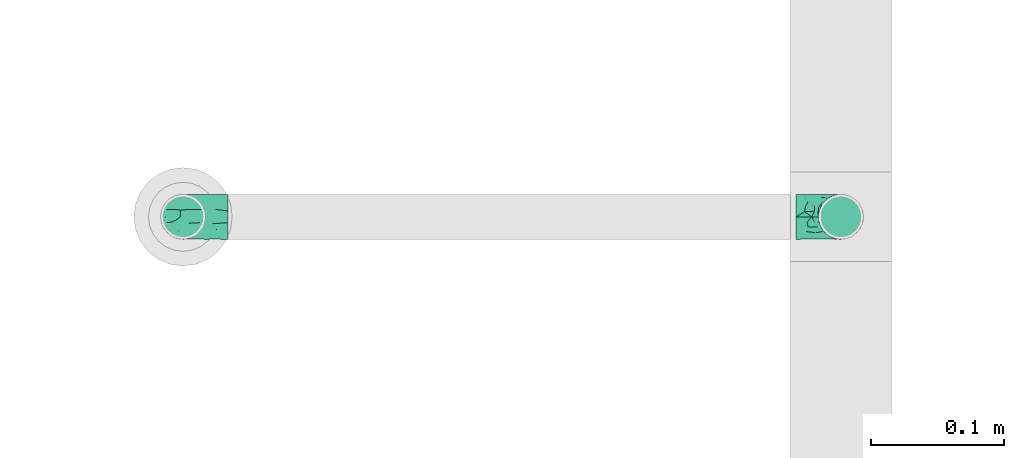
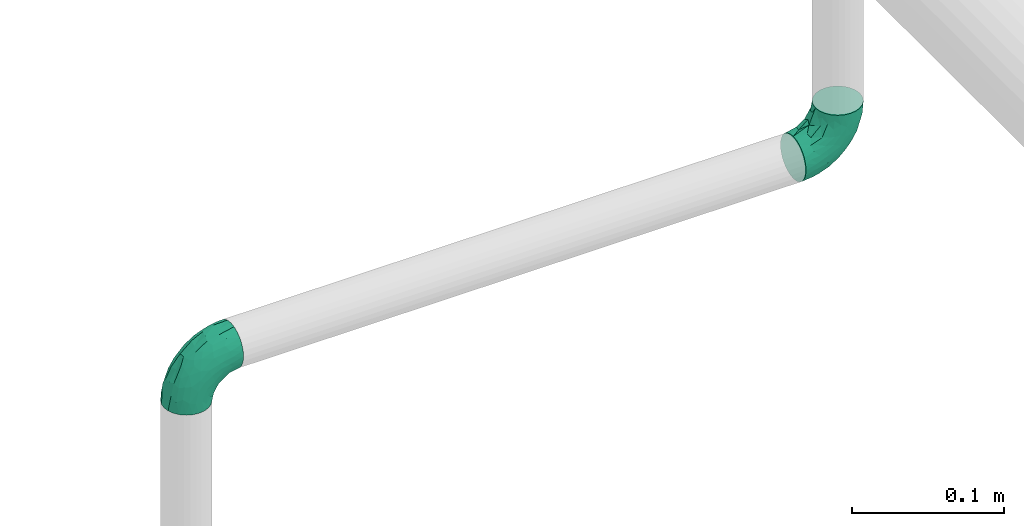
# One storey, part 78 of 95: 2 flow fittings.
"""IFC2X3 building model written with IfcOpenShell, lengths in millimetres."""

from ifc_helpers import new_model, entity, si_unit, converted_unit, derived_unit, direction, frame, origin_with_axes, place, context, subcontext, project, spatial, open_shell, surface_model, source, transform, mapped, type_object, element, save


model = new_model("IFC2X3")

# Units and contexts
model_context = context("Model", 3, precision=0.01, world=frame((0.0, 4.29681676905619e-09, 0.0)), true_north=direction((4.01073788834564e-13, 1.0)))
plan_context = context("Plan", 3, precision=0.01, world=frame((0.0, 4.29681676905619e-09, 0.0)), true_north=direction((4.01073788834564e-13, 1.0)))
body_context = subcontext(model_context, "Body", "Model", "MODEL_VIEW")
ifc_project = project(units=[converted_unit("PLANEANGLEUNIT", "DEGREE", entity("IfcPositiveLengthMeasure", 0.0174532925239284), si_unit("PLANEANGLEUNIT", "RADIAN"), dimensions=[0, 0, 0, 0, 0, 0, 0]), si_unit("AREAUNIT", "SQUARE_METRE"), si_unit("LENGTHUNIT", "METRE", prefix="MILLI"), si_unit("MASSUNIT", "GRAM", prefix="KILO"), si_unit("POWERUNIT", "WATT"), si_unit("PRESSUREUNIT", "PASCAL"), si_unit("FORCEUNIT", "NEWTON", prefix="KILO"), si_unit("ELECTRICVOLTAGEUNIT", "VOLT"), si_unit("ELECTRICCURRENTUNIT", "AMPERE"), si_unit("THERMODYNAMICTEMPERATUREUNIT", "DEGREE_CELSIUS"), si_unit("TIMEUNIT", "SECOND"), si_unit("VOLUMEUNIT", "CUBIC_METRE"), derived_unit("LINEARVELOCITYUNIT", [(si_unit("LENGTHUNIT", "METRE"), 1), (si_unit("TIMEUNIT", "SECOND"), -1)]), derived_unit("VOLUMETRICFLOWRATEUNIT", [(si_unit("VOLUMEUNIT", "CUBIC_METRE"), 1), (si_unit("TIMEUNIT", "SECOND"), -1)]), derived_unit("THERMALTRANSMITTANCEUNIT", [(si_unit("POWERUNIT", "WATT"), 1), (si_unit("THERMODYNAMICTEMPERATUREUNIT", "KELVIN"), -1), (si_unit("AREAUNIT", "SQUARE_METRE"), -1)]), derived_unit("SOUNDPRESSUREUNIT", [(si_unit("PRESSUREUNIT", "PASCAL"), 1)])], contexts=[model_context, plan_context])

# Site, building, storey
site_placement = place(None, frame((0.0, -4.29681676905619e-09, 0.0), z_axis=(0.0, 0.0, 1.0), x_axis=(1.0, 0.0, 0.0)))
site = spatial("IfcSite", under=ifc_project, at=site_placement, CompositionType="ELEMENT")
building_placement = place(site_placement, frame((0.0, 4.29681676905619e-09, 0.0), z_axis=(0.0, 0.0, 1.0), x_axis=(1.0, 0.0, 0.0)))
building = spatial("IfcBuilding", under=site, at=building_placement, Name="mc-building", CompositionType="ELEMENT")
storey_placement = place(building_placement, frame((0.0, 0.0, 210900.0), z_axis=(0.0, 0.0, 1.0), x_axis=(1.0, 0.0, 0.0)))
storey = spatial("IfcBuildingStorey", under=building, at=storey_placement, Name="Nivå F", CompositionType="ELEMENT", Elevation=210900.0)

# Flow fittings
pipe_fitting_type = type_object("IfcPipeFittingType", Name="magi_pipe_fe_elbow_short_001", PredefinedType="BEND")
shared_shape_1 = source(origin_with_axes(), body_context, "Body", "SurfaceModel", [
    surface_model("IfcShellBasedSurfaceModel", [(-33.8, 8.45, -14.63583), (-33.8, 4.37404, -16.32415), (-33.8, 11.9501, -11.9501), (-33.8, -11.9501, -11.9501), (-33.8, -14.63583, -8.45), (-33.8, -8.45, -14.63583), (-33.8, 0.0, -16.9), (-33.8, -4.37404, -16.32415), (-33.8, -4.37404, 16.32415), (-33.8, 0.0, 16.9), (-33.8, -8.45, 14.63583), (-33.8, 16.32415, -4.37404), (-33.8, 14.63583, -8.45), (-33.8, -16.32415, -4.37404), (-33.8, -16.9, 0.0), (-33.8, -16.32415, 4.37404), (-33.8, 11.9501, 11.9501), (-33.8, 14.63583, 8.45), (-33.8, 16.32415, 4.37404), (-33.8, 4.37404, 16.32415), (-33.8, 8.45, 14.63583), (-33.8, -14.63583, 8.45), (-33.8, -11.9501, 11.9501), (-33.8, 16.9, 0.0), (-11.9501, 33.8, -11.9501), (0.0, 33.8, -16.9), (-4.37404, 33.8, -16.32415), (-8.45, 33.8, -14.63583), (-14.63583, 33.8, -8.45), (-16.32415, 33.8, -4.37404), (14.63583, 33.8, -8.45), (8.45, 33.8, 14.63583), (16.32415, 33.8, -4.37404), (8.45, 33.8, -14.63583), (11.9501, 33.8, -11.9501), (4.37404, 33.8, -16.32415), (16.32415, 33.8, 4.37404), (16.9, 33.8, 0.0), (-11.9501, 33.8, 11.9501), (-16.32415, 33.8, 4.37404), (-14.63583, 33.8, 8.45), (-8.45, 33.8, 14.63583), (-4.37404, 33.8, 16.32415), (11.9501, 33.8, 11.9501), (14.63583, 33.8, 8.45), (0.0, 33.8, 16.9), (4.37404, 33.8, 16.32415), (-16.9, 33.8, 0.0), (-24.79389, -13.12945, 9.48721), (-22.19287, -9.75018, 12.59315), (-24.09897, -14.97035, 0.0), (-14.93934, -10.76256, 8.5297), (-22.46095, -14.75051, 5.27077), (14.75051, 22.46094, 5.27077), (11.9251, 13.23888, 4.33236), (13.04069, 14.39795, 0.0), (7.71387, 13.68847, 11.55891), (9.75018, 22.19287, 12.59315), (4.10169, 13.0571, 14.04018), (-24.84007, -6.39063, 15.2048), (-25.81779, -2.23879, 16.61097), (-23.66549, 2.59054, 16.87119), (-26.50418, 14.06512, 11.08152), (-24.21253, 17.66365, 7.72657), (-29.58514, 15.86957, 7.00283), (-6.17382, -7.5455, 0.0), (-13.23888, -11.9251, 4.33236), (-14.39795, -13.04069, 0.0), (-17.81434, 18.87373, 11.97104), (-6.30846, 29.15138, 15.82987), (-2.31622, 25.28002, 16.85849), (-29.23923, 10.23435, 13.77053), (-1.45439, -2.85688, 7.61475), (-0.28326, 0.34872, 10.09509), (-5.74484, -4.04709, 10.4122), (-4.41137, 11.31918, 16.59407), (-8.39727, 3.10034, 15.7812), (-1.72649, 9.1306, 15.53089), (-17.39909, 24.75344, 7.64977), (-26.19233, 20.0512, 0.0), (-28.14518, 17.29657, 4.25857), (-26.05147, 6.6281, 15.96447), (-5.87354, 16.61944, 16.86968), (-12.51807, 12.51807, 16.48937), (-10.06312, 7.38516, 16.81295), (-3.01882, 3.01882, 13.81718), (-13.0571, -4.10169, 14.04018), (-16.82553, -0.15166, 16.38038), (10.76256, 14.93934, 8.5297), (13.12945, 24.79389, 9.48721), (6.39063, 24.84007, 15.2048), (2.23879, 25.81779, 16.61097), (-13.68847, -7.71387, 11.55891), (14.97035, 24.09897, 0.0), (-7.30894, 22.89991, 16.09489), (-10.67958, 26.17414, 14.008), (-12.78295, 18.26924, 15.06066), (-13.88562, 22.45231, 12.93244), (-18.04944, 15.16501, 14.04434), (-23.11658, 20.08178, 4.02986), (-21.84989, 21.84989, 0.0), (-18.55817, 25.48277, 3.93065), (-13.95142, 26.94732, 11.03289), (-18.57098, 7.23906, 16.59756), (-16.58335, 4.14122, 16.89279), (-17.96666, 11.46709, 15.63151), (-9.84453, 17.54304, 16.18938), (0.15166, 16.82553, 16.38038), (-23.27207, 11.47201, 14.23154), (3.84842, 5.86994, 10.70473), (-8.0212, -7.54413, 7.93275), (1.00345, -2.19508, 4.57414), (5.13203, 3.01004, 5.90201), (5.24161, 1.7543, 2.53265), (8.70457, 7.04947, 3.99182), (-20.0512, 26.19233, 0.0), (8.4852, 8.76699, 7.09296), (-4.55488, -6.72064, 4.90681), (2.05031, -2.05031, 0.0), (7.5455, 6.17382, 0.0), (-26.75399, 2.1369, -16.845), (-14.61995, 24.73803, -11.27736), (-28.45274, -13.45335, -9.81895), (-26.00469, 6.63555, -15.96645), (-23.06726, 20.04573, -4.26202), (-13.80647, -4.26506, -14.17873), (-14.67501, -0.21081, -16.07388), (-6.7902, -0.2828, -13.8478), (-24.53586, 11.08096, -14.13417), (-26.72048, 14.00837, -11.05776), (10.0967, 24.44989, -12.75976), (5.83237, 21.40218, -15.03047), (6.66249, 28.54238, -15.38093), (-20.38182, 15.48705, -12.74596), (12.53268, 21.23441, -9.15363), (12.54494, 15.67504, -5.54878), (9.7522, 12.89279, -8.66343), (-15.65186, 19.64213, -13.01327), (-12.03528, 20.66498, -14.67665), (-15.61907, 15.61906, -14.83879), (-25.56551, -15.26206, 0.0), (-24.65452, -15.12934, -5.50955), (13.45335, 28.45274, -9.81895), (15.12934, 24.65452, -5.50955), (-7.35442, -8.31014, -5.65563), (-15.67504, -12.54494, -5.54878), (-24.44989, -10.0967, -12.75976), (0.16522, 0.41303, -9.71728), (-5.70658, -5.33066, -8.89288), (-5.13869, -2.37198, -11.53565), (-21.23441, -12.53268, -9.15363), (0.71146, 7.93863, -14.09382), (0.21081, 14.67501, -16.07388), (3.49291, 14.42772, -14.76381), (-24.89911, -2.13088, -16.591), (-28.54238, -6.66249, -15.38093), (-18.44386, -7.71663, -13.26957), (2.13088, 24.89911, -16.591), (-28.64342, 17.44413, -2.89318), (1.70017, -1.28722, -5.09504), (-16.57067, 26.81947, -7.36596), (-17.69055, 27.4263, -3.76405), (-12.89279, -9.7522, -8.66343), (-5.96611, 5.96611, -15.95814), (-20.53709, 20.09345, -8.28985), (-2.1369, 26.75399, -16.845), (-6.89872, 24.58781, -16.02578), (-10.60739, 26.53157, -13.98044), (-21.40218, -5.83237, -15.03047), (2.93192, 5.89627, -11.55917), (6.89393, 12.61842, -11.82233), (5.58056, 5.95325, -8.79455), (-3.99512, 18.61798, -16.89635), (8.31014, 7.35442, -5.65563), (-9.1383, 9.86148, -16.89041), (-9.99983, 16.02119, -16.39699), (-16.68576, 9.78031, -16.34199), (-27.01915, 16.61158, -7.12979), (15.26206, 25.56551, 0.0), (-18.61798, 3.99512, -16.89635), (-19.37495, 27.82495, 0.0), (-12.61842, -6.89393, -11.82233), (-18.84705, 19.14018, -10.96545)], [open_shell([[[0, 1, 2]], [[3, 4, 5]], [[6, 7, 5]], [[8, 9, 10]], [[1, 6, 2]], [[11, 12, 2]], [[4, 2, 6]], [[2, 13, 10]], [[5, 4, 6]], [[2, 4, 13]], [[14, 15, 13]], [[11, 2, 16]], [[11, 17, 18]], [[11, 16, 17]], [[19, 20, 16]], [[16, 2, 10]], [[19, 16, 10]], [[21, 22, 15]], [[22, 13, 15]], [[22, 10, 13]], [[10, 9, 19]], [[11, 18, 23]], [[24, 25, 26]], [[24, 26, 27]], [[24, 28, 29]], [[25, 24, 30]], [[31, 32, 24]], [[33, 30, 34]], [[33, 35, 25]], [[25, 30, 33]], [[32, 30, 24]], [[32, 36, 37]], [[38, 24, 29]], [[39, 40, 29]], [[40, 38, 29]], [[38, 41, 42]], [[38, 31, 24]], [[31, 38, 42]], [[36, 43, 44]], [[36, 32, 43]], [[31, 45, 46]], [[32, 31, 43]], [[42, 45, 31]], [[39, 29, 47]], [[22, 48, 49]], [[15, 14, 50]], [[51, 48, 52]], [[53, 54, 55]], [[48, 22, 21]], [[15, 52, 21]], [[56, 57, 58]], [[49, 10, 22]], [[49, 59, 10]], [[9, 60, 61]], [[62, 63, 64]], [[65, 66, 67]], [[57, 43, 31]], [[62, 68, 63]], [[42, 69, 70]], [[20, 71, 16]], [[8, 60, 9]], [[72, 73, 74]], [[75, 76, 77]], [[16, 62, 17]], [[40, 39, 78]], [[79, 23, 80]], [[64, 18, 17]], [[9, 61, 19]], [[19, 81, 20]], [[82, 83, 84]], [[74, 85, 86]], [[59, 86, 87]], [[88, 89, 57]], [[90, 31, 46]], [[44, 53, 36]], [[46, 45, 91]], [[54, 53, 88]], [[44, 89, 53]], [[92, 86, 49]], [[89, 44, 43]], [[10, 59, 8]], [[53, 55, 93]], [[93, 36, 53]], [[66, 52, 67]], [[94, 82, 70]], [[95, 96, 94]], [[97, 98, 96]], [[79, 99, 100]], [[41, 38, 95]], [[101, 100, 99]], [[68, 78, 63]], [[42, 41, 69]], [[23, 18, 80]], [[95, 94, 69]], [[78, 101, 99]], [[38, 102, 95]], [[70, 45, 42]], [[97, 95, 102]], [[15, 50, 52]], [[90, 57, 31]], [[57, 90, 58]], [[81, 19, 61]], [[103, 104, 84]], [[105, 81, 103]], [[38, 40, 102]], [[106, 96, 83]], [[94, 106, 82]], [[91, 70, 107]], [[71, 62, 16]], [[62, 108, 98]], [[86, 59, 49]], [[67, 52, 50]], [[60, 59, 87]], [[92, 49, 51]], [[86, 85, 76]], [[91, 90, 46]], [[37, 36, 93]], [[107, 77, 58]], [[107, 58, 90]], [[58, 85, 109]], [[110, 74, 92]], [[72, 74, 110]], [[66, 51, 52]], [[72, 111, 112]], [[113, 114, 112]], [[56, 88, 57]], [[52, 48, 21]], [[49, 48, 51]], [[57, 89, 43]], [[53, 89, 88]], [[103, 81, 61]], [[71, 81, 108]], [[18, 64, 80]], [[63, 78, 99]], [[47, 115, 101]], [[101, 115, 100]], [[40, 78, 102]], [[68, 102, 78]], [[97, 96, 95]], [[105, 98, 108]], [[103, 84, 83]], [[107, 70, 82]], [[76, 84, 87]], [[82, 84, 75]], [[70, 91, 45]], [[90, 91, 107]], [[59, 60, 8]], [[61, 60, 87]], [[73, 85, 74]], [[109, 112, 116]], [[103, 61, 104]], [[105, 103, 83]], [[96, 105, 83]], [[81, 105, 108]], [[96, 98, 105]], [[62, 98, 68]], [[61, 87, 104]], [[87, 84, 104]], [[86, 76, 87]], [[77, 76, 85]], [[58, 77, 85]], [[75, 77, 107]], [[82, 75, 107]], [[76, 75, 84]], [[81, 71, 20]], [[62, 71, 108]], [[95, 69, 41]], [[70, 69, 94]], [[62, 64, 17]], [[80, 63, 99]], [[63, 80, 64]], [[80, 99, 79]], [[66, 65, 117]], [[110, 66, 117]], [[112, 114, 116]], [[118, 117, 65]], [[110, 92, 51]], [[112, 111, 113]], [[119, 55, 54]], [[74, 86, 92]], [[58, 109, 56]], [[116, 56, 109]], [[66, 110, 51]], [[72, 110, 117]], [[111, 72, 117]], [[73, 112, 109]], [[117, 118, 111]], [[113, 111, 118]], [[118, 119, 113]], [[114, 119, 54]], [[119, 114, 113]], [[116, 54, 88]], [[54, 116, 114]], [[116, 88, 56]], [[112, 73, 72]], [[85, 73, 109]], [[78, 39, 101]], [[47, 101, 39]], [[102, 68, 97]], [[97, 68, 98]], [[82, 106, 83]], [[94, 96, 106]], [[1, 120, 6]], [[28, 24, 121]], [[3, 122, 4]], [[0, 123, 1]], [[100, 124, 79]], [[125, 126, 127]], [[128, 2, 129]], [[130, 131, 132]], [[128, 129, 133]], [[134, 135, 136]], [[137, 138, 139]], [[128, 0, 2]], [[67, 140, 141]], [[134, 142, 143]], [[141, 13, 4]], [[144, 65, 145]], [[146, 3, 5]], [[147, 148, 149]], [[145, 141, 150]], [[151, 152, 153]], [[154, 7, 6]], [[5, 155, 146]], [[150, 146, 156]], [[155, 5, 7]], [[143, 135, 134]], [[35, 157, 25]], [[23, 79, 158]], [[148, 159, 144]], [[160, 161, 29]], [[145, 162, 144]], [[163, 152, 151]], [[29, 28, 160]], [[121, 164, 160]], [[33, 34, 130]], [[25, 165, 26]], [[26, 165, 166]], [[142, 34, 30]], [[24, 27, 167]], [[124, 161, 164]], [[157, 35, 132]], [[155, 154, 168]], [[123, 0, 128]], [[169, 170, 171]], [[172, 157, 152]], [[26, 166, 27]], [[132, 35, 33]], [[142, 130, 34]], [[168, 154, 126]], [[136, 135, 173]], [[133, 137, 139]], [[2, 12, 129]], [[170, 131, 130]], [[30, 32, 143]], [[172, 174, 175]], [[176, 123, 128]], [[158, 177, 11]], [[135, 55, 119]], [[167, 27, 166]], [[175, 166, 172]], [[137, 167, 138]], [[122, 141, 4]], [[140, 14, 13]], [[32, 37, 178]], [[170, 130, 134]], [[152, 157, 131]], [[165, 157, 172]], [[153, 170, 151]], [[152, 163, 174]], [[168, 125, 156]], [[122, 146, 150]], [[120, 154, 6]], [[179, 174, 126]], [[179, 126, 154]], [[126, 163, 127]], [[162, 145, 150]], [[140, 13, 141]], [[32, 178, 143]], [[55, 143, 178]], [[177, 129, 12]], [[128, 133, 139]], [[176, 128, 139]], [[120, 123, 179]], [[121, 160, 28]], [[161, 100, 180]], [[166, 175, 138]], [[121, 24, 167]], [[161, 47, 29]], [[79, 124, 158]], [[124, 164, 177]], [[161, 124, 100]], [[136, 171, 170]], [[127, 163, 151]], [[147, 171, 159]], [[148, 144, 162]], [[127, 151, 169]], [[127, 181, 125]], [[129, 177, 164]], [[12, 11, 177]], [[159, 65, 144]], [[67, 141, 145]], [[143, 55, 135]], [[135, 119, 173]], [[123, 120, 1]], [[154, 120, 179]], [[157, 165, 25]], [[166, 165, 172]], [[172, 152, 174]], [[176, 139, 175]], [[126, 174, 163]], [[176, 174, 179]], [[174, 176, 175]], [[123, 176, 179]], [[150, 181, 162]], [[127, 149, 181]], [[181, 148, 162]], [[159, 148, 147]], [[171, 136, 173]], [[170, 134, 136]], [[159, 171, 173]], [[171, 147, 169]], [[169, 147, 149]], [[151, 170, 169]], [[164, 182, 129]], [[182, 121, 137]], [[181, 149, 148]], [[169, 149, 127]], [[182, 137, 133]], [[167, 137, 121]], [[166, 138, 167]], [[175, 139, 138]], [[129, 182, 133]], [[121, 182, 164]], [[161, 160, 164]], [[47, 161, 180]], [[177, 158, 124]], [[23, 158, 11]], [[130, 132, 33]], [[157, 132, 131]], [[143, 142, 30]], [[130, 142, 134]], [[154, 155, 7]], [[146, 155, 168]], [[146, 122, 3]], [[141, 122, 150]], [[152, 131, 153]], [[159, 119, 118]], [[67, 145, 65]], [[170, 153, 131]], [[119, 159, 173]], [[159, 118, 65]], [[156, 125, 181]], [[126, 125, 168]], [[150, 156, 181]], [[168, 156, 146]]])]),
])
flow_fitting_1_placement = place(storey_placement, frame((534107.98071, 458598.02191, 4100.0), z_axis=(0.0, -1.0, 0.0), x_axis=(-1.0, 0.0, 0.0)))
element("IfcFlowFitting", 1, at=flow_fitting_1_placement, inside=storey, type_object=pipe_fitting_type, Name="magi_pipe_fe_elbow_short_001", context=body_context, shape_type="MappedRepresentation", body=[
    mapped(shared_shape_1, transform((0.0, 0.0, 0.0), scale=1.0)),
])
shared_shape_2 = source(origin_with_axes(), body_context, "Body", "SurfaceModel", [
    surface_model("IfcShellBasedSurfaceModel", [(-33.8, 16.32415, -4.37404), (-33.8, 16.32415, 4.37404), (-33.8, 16.9, 0.0), (-33.8, -11.9501, -11.9501), (-33.8, 0.0, -16.9), (-33.8, -4.37404, -16.32415), (-33.8, -8.45, -14.63583), (-33.8, -14.63583, -8.45), (-33.8, -16.32415, -4.37404), (-33.8, 14.63583, -8.45), (-33.8, 8.45, 14.63583), (-33.8, 8.45, -14.63583), (-33.8, 11.9501, -11.9501), (-33.8, 4.37404, -16.32415), (-33.8, -11.9501, 11.9501), (-33.8, -16.32415, 4.37404), (-33.8, -14.63583, 8.45), (-33.8, -8.45, 14.63583), (-33.8, -4.37404, 16.32415), (-33.8, 11.9501, 11.9501), (-33.8, 14.63583, 8.45), (-33.8, 0.0, 16.9), (-33.8, 4.37404, 16.32415), (-33.8, -16.9, 0.0), (-4.37404, -33.8, -16.32415), (0.0, -33.8, -16.9), (-11.9501, -33.8, -11.9501), (-8.45, -33.8, -14.63583), (-16.32415, -33.8, -4.37404), (-14.63583, -33.8, -8.45), (14.63583, -33.8, -8.45), (16.32415, -33.8, -4.37404), (8.45, -33.8, 14.63583), (11.9501, -33.8, -11.9501), (8.45, -33.8, -14.63583), (4.37404, -33.8, -16.32415), (16.9, -33.8, 0.0), (16.32415, -33.8, 4.37404), (-11.9501, -33.8, 11.9501), (-14.63583, -33.8, 8.45), (-16.32415, -33.8, 4.37404), (-4.37404, -33.8, 16.32415), (-8.45, -33.8, 14.63583), (14.63583, -33.8, 8.45), (11.9501, -33.8, 11.9501), (4.37404, -33.8, 16.32415), (0.0, -33.8, 16.9), (-16.9, -33.8, 0.0), (-22.19287, 9.75018, 12.59315), (-24.79389, 13.12945, 9.48721), (-24.09897, 14.97035, 0.0), (-22.46095, 14.75051, 5.27077), (-14.93934, 10.76256, 8.5297), (13.04069, -14.39795, 0.0), (11.9251, -13.23888, 4.33236), (14.75051, -22.46094, 5.27077), (4.10169, -13.0571, 14.04018), (9.75018, -22.19287, 12.59315), (7.71387, -13.68847, 11.55891), (-24.84007, 6.39063, 15.2048), (-23.66549, -2.59054, 16.87119), (-25.81779, 2.23879, 16.61097), (-29.58514, -15.86957, 7.00283), (-24.21253, -17.66365, 7.72657), (-26.50418, -14.06512, 11.08152), (-14.39795, 13.04069, 0.0), (-13.23888, 11.9251, 4.33236), (-6.17382, 7.5455, 0.0), (-17.81434, -18.87373, 11.97104), (-2.31622, -25.28002, 16.85849), (-6.30846, -29.15138, 15.82987), (-29.23923, -10.23435, 13.77053), (-5.74484, 4.04709, 10.4122), (-0.28326, -0.34872, 10.09509), (-1.45439, 2.85688, 7.61475), (-1.72649, -9.1306, 15.53089), (-8.39727, -3.10034, 15.7812), (-4.41137, -11.31918, 16.59407), (-17.39909, -24.75344, 7.64977), (-28.14518, -17.29657, 4.25857), (-26.19233, -20.0512, 0.0), (-26.05147, -6.6281, 15.96447), (-10.06312, -7.38516, 16.81295), (-12.51807, -12.51807, 16.48937), (-5.87354, -16.61944, 16.86968), (-13.0571, 4.10169, 14.04018), (-3.01882, -3.01882, 13.81718), (-16.82553, 0.15166, 16.38038), (13.12945, -24.79389, 9.48721), (10.76256, -14.93934, 8.5297), (6.39063, -24.84007, 15.2048), (2.23879, -25.81779, 16.61097), (-13.68847, 7.71387, 11.55891), (14.97035, -24.09897, 0.0), (-7.30894, -22.89991, 16.09489), (-12.78295, -18.26924, 15.06066), (-10.67958, -26.17414, 14.008), (-18.04944, -15.16501, 14.04434), (-13.88562, -22.45231, 12.93244), (-21.84989, -21.84989, 0.0), (-23.11658, -20.08178, 4.02986), (-18.55817, -25.48277, 3.93065), (-13.95142, -26.94732, 11.03289), (-16.58335, -4.14122, 16.89279), (-18.57098, -7.23906, 16.59756), (-17.96666, -11.46709, 15.63151), (-9.84453, -17.54304, 16.18938), (0.15166, -16.82553, 16.38038), (-23.27207, -11.47201, 14.23154), (3.84842, -5.86994, 10.70473), (-8.0212, 7.54413, 7.93275), (5.13203, -3.01004, 5.90201), (1.00345, 2.19508, 4.57414), (8.70457, -7.04947, 3.99182), (5.24161, -1.7543, 2.53265), (-20.0512, -26.19233, 0.0), (8.4852, -8.76699, 7.09296), (-4.55488, 6.72064, 4.90681), (2.05031, 2.05031, 0.0), (7.5455, -6.17382, 0.0), (-26.75399, -2.1369, -16.845), (-14.61995, -24.73803, -11.27736), (-28.45274, 13.45335, -9.81895), (-26.00469, -6.63555, -15.96645), (-23.06726, -20.04573, -4.26202), (-6.7902, 0.2828, -13.8478), (-14.67501, 0.21081, -16.07388), (-13.80647, 4.26506, -14.17873), (-26.72048, -14.00837, -11.05776), (-24.53586, -11.08096, -14.13417), (6.66249, -28.54238, -15.38093), (5.83237, -21.40218, -15.03047), (10.0967, -24.44989, -12.75976), (-20.38182, -15.48705, -12.74596), (9.7522, -12.89279, -8.66343), (12.54494, -15.67504, -5.54878), (12.53268, -21.23441, -9.15363), (-15.61907, -15.61906, -14.83879), (-12.03528, -20.66498, -14.67665), (-15.65186, -19.64213, -13.01327), (-24.65452, 15.12934, -5.50955), (-25.56551, 15.26206, 0.0), (15.12934, -24.65452, -5.50955), (13.45335, -28.45274, -9.81895), (-15.67504, 12.54494, -5.54878), (-7.35442, 8.31014, -5.65563), (-24.44989, 10.0967, -12.75976), (-5.13869, 2.37198, -11.53565), (-5.70658, 5.33066, -8.89288), (0.16522, -0.41303, -9.71728), (-21.23441, 12.53268, -9.15363), (3.49291, -14.42772, -14.76381), (0.21081, -14.67501, -16.07388), (0.71146, -7.93863, -14.09382), (-24.89911, 2.13088, -16.591), (-28.54238, 6.66249, -15.38093), (-18.44386, 7.71663, -13.26957), (2.13088, -24.89911, -16.591), (-28.64342, -17.44413, -2.89318), (1.70017, 1.28722, -5.09504), (-17.69055, -27.4263, -3.76405), (-16.57067, -26.81947, -7.36596), (-12.89279, 9.7522, -8.66343), (-5.96611, -5.96611, -15.95814), (-20.53709, -20.09345, -8.28985), (-2.1369, -26.75399, -16.845), (-6.89872, -24.58781, -16.02578), (-10.60739, -26.53157, -13.98044), (-21.40218, 5.83237, -15.03047), (5.58056, -5.95325, -8.79455), (6.89393, -12.61842, -11.82233), (2.93192, -5.89627, -11.55917), (-3.99512, -18.61798, -16.89635), (8.31014, -7.35442, -5.65563), (-9.99983, -16.02119, -16.39699), (-9.1383, -9.86148, -16.89041), (-16.68576, -9.78031, -16.34199), (-27.01915, -16.61158, -7.12979), (15.26206, -25.56551, 0.0), (-18.61798, -3.99512, -16.89635), (-19.37495, -27.82495, 0.0), (-12.61842, 6.89393, -11.82233), (-18.84705, -19.14018, -10.96545)], [open_shell([[[0, 1, 2]], [[3, 4, 5]], [[3, 5, 6]], [[3, 7, 8]], [[4, 3, 9]], [[10, 0, 3]], [[11, 9, 12]], [[11, 13, 4]], [[4, 9, 11]], [[0, 9, 3]], [[14, 3, 8]], [[15, 16, 8]], [[16, 14, 8]], [[14, 17, 18]], [[14, 10, 3]], [[10, 14, 18]], [[1, 19, 20]], [[1, 0, 19]], [[10, 21, 22]], [[0, 10, 19]], [[18, 21, 10]], [[15, 8, 23]], [[24, 25, 26]], [[27, 24, 26]], [[28, 29, 26]], [[30, 26, 25]], [[26, 31, 32]], [[33, 30, 34]], [[25, 35, 34]], [[34, 30, 25]], [[26, 30, 31]], [[36, 37, 31]], [[28, 26, 38]], [[28, 39, 40]], [[28, 38, 39]], [[41, 42, 38]], [[38, 26, 32]], [[41, 38, 32]], [[43, 44, 37]], [[44, 31, 37]], [[45, 46, 32]], [[44, 32, 31]], [[32, 46, 41]], [[28, 40, 47]], [[48, 49, 19]], [[50, 2, 1]], [[51, 49, 52]], [[53, 54, 55]], [[20, 19, 49]], [[20, 51, 1]], [[56, 57, 58]], [[19, 10, 48]], [[10, 59, 48]], [[60, 61, 21]], [[62, 63, 64]], [[65, 66, 67]], [[32, 44, 57]], [[63, 68, 64]], [[69, 70, 41]], [[14, 71, 17]], [[21, 61, 22]], [[72, 73, 74]], [[75, 76, 77]], [[16, 64, 14]], [[78, 40, 39]], [[79, 23, 80]], [[16, 15, 62]], [[18, 60, 21]], [[17, 81, 18]], [[82, 83, 84]], [[85, 86, 72]], [[87, 85, 59]], [[57, 88, 89]], [[45, 32, 90]], [[37, 55, 43]], [[91, 46, 45]], [[89, 55, 54]], [[55, 88, 43]], [[48, 85, 92]], [[44, 43, 88]], [[22, 59, 10]], [[93, 53, 55]], [[55, 37, 93]], [[65, 51, 66]], [[69, 84, 94]], [[94, 95, 96]], [[95, 97, 98]], [[99, 100, 80]], [[96, 38, 42]], [[100, 99, 101]], [[63, 78, 68]], [[70, 42, 41]], [[79, 15, 23]], [[70, 94, 96]], [[100, 101, 78]], [[96, 102, 38]], [[41, 46, 69]], [[102, 96, 98]], [[51, 50, 1]], [[32, 57, 90]], [[56, 90, 57]], [[60, 18, 81]], [[82, 103, 104]], [[104, 81, 105]], [[102, 39, 38]], [[83, 95, 106]], [[84, 106, 94]], [[107, 69, 91]], [[14, 64, 71]], [[97, 108, 64]], [[48, 59, 85]], [[50, 51, 65]], [[87, 59, 61]], [[52, 48, 92]], [[76, 86, 85]], [[45, 90, 91]], [[93, 37, 36]], [[56, 75, 107]], [[90, 56, 107]], [[109, 86, 56]], [[92, 72, 110]], [[110, 72, 74]], [[51, 52, 66]], [[111, 112, 74]], [[111, 113, 114]], [[57, 89, 58]], [[20, 49, 51]], [[52, 49, 48]], [[44, 88, 57]], [[89, 88, 55]], [[60, 81, 104]], [[108, 81, 71]], [[79, 62, 15]], [[100, 78, 63]], [[101, 115, 47]], [[99, 115, 101]], [[102, 78, 39]], [[78, 102, 68]], [[96, 95, 98]], [[108, 97, 105]], [[83, 82, 104]], [[84, 69, 107]], [[87, 82, 76]], [[77, 82, 84]], [[46, 91, 69]], [[107, 91, 90]], [[22, 61, 59]], [[87, 61, 60]], [[72, 86, 73]], [[116, 111, 109]], [[103, 60, 104]], [[83, 104, 105]], [[83, 105, 95]], [[108, 105, 81]], [[105, 97, 95]], [[68, 97, 64]], [[103, 87, 60]], [[103, 82, 87]], [[87, 76, 85]], [[86, 76, 75]], [[86, 75, 56]], [[107, 75, 77]], [[107, 77, 84]], [[82, 77, 76]], [[17, 71, 81]], [[108, 71, 64]], [[42, 70, 96]], [[94, 70, 69]], [[16, 62, 64]], [[100, 63, 79]], [[62, 79, 63]], [[80, 100, 79]], [[117, 67, 66]], [[117, 66, 110]], [[116, 113, 111]], [[67, 117, 118]], [[52, 92, 110]], [[114, 112, 111]], [[54, 53, 119]], [[92, 85, 72]], [[58, 109, 56]], [[109, 58, 116]], [[52, 110, 66]], [[117, 110, 74]], [[117, 74, 112]], [[109, 111, 73]], [[112, 118, 117]], [[118, 112, 114]], [[114, 119, 118]], [[54, 119, 113]], [[114, 113, 119]], [[89, 54, 116]], [[113, 116, 54]], [[58, 89, 116]], [[74, 73, 111]], [[109, 73, 86]], [[101, 40, 78]], [[40, 101, 47]], [[98, 68, 102]], [[97, 68, 98]], [[83, 106, 84]], [[106, 95, 94]], [[4, 120, 5]], [[121, 26, 29]], [[9, 122, 12]], [[5, 123, 6]], [[80, 124, 99]], [[125, 126, 127]], [[128, 3, 129]], [[130, 131, 132]], [[133, 128, 129]], [[134, 135, 136]], [[137, 138, 139]], [[3, 6, 129]], [[140, 141, 65]], [[142, 143, 136]], [[9, 0, 140]], [[144, 67, 145]], [[11, 12, 146]], [[147, 148, 149]], [[150, 140, 144]], [[151, 152, 153]], [[4, 13, 154]], [[146, 155, 11]], [[156, 146, 150]], [[13, 11, 155]], [[136, 135, 142]], [[25, 157, 35]], [[158, 80, 23]], [[145, 159, 148]], [[28, 160, 161]], [[145, 162, 144]], [[153, 152, 163]], [[161, 29, 28]], [[161, 164, 121]], [[132, 33, 34]], [[24, 165, 25]], [[166, 165, 24]], [[30, 33, 143]], [[167, 27, 26]], [[164, 160, 124]], [[130, 35, 157]], [[168, 154, 155]], [[129, 6, 123]], [[169, 170, 171]], [[152, 157, 172]], [[27, 166, 24]], [[34, 35, 130]], [[33, 132, 143]], [[126, 154, 168]], [[173, 135, 134]], [[137, 139, 133]], [[128, 7, 3]], [[132, 131, 170]], [[142, 31, 30]], [[174, 175, 172]], [[129, 123, 176]], [[8, 177, 158]], [[119, 53, 135]], [[166, 27, 167]], [[172, 166, 174]], [[138, 167, 139]], [[9, 140, 122]], [[0, 2, 141]], [[178, 36, 31]], [[136, 132, 170]], [[131, 157, 152]], [[172, 157, 165]], [[153, 170, 151]], [[175, 163, 152]], [[156, 127, 168]], [[150, 146, 122]], [[4, 154, 120]], [[126, 175, 179]], [[154, 126, 179]], [[125, 163, 126]], [[150, 144, 162]], [[140, 0, 141]], [[142, 178, 31]], [[178, 142, 53]], [[7, 128, 177]], [[137, 133, 129]], [[137, 129, 176]], [[179, 123, 120]], [[29, 161, 121]], [[180, 99, 160]], [[138, 174, 166]], [[167, 26, 121]], [[28, 47, 160]], [[158, 124, 80]], [[177, 164, 124]], [[99, 124, 160]], [[170, 169, 134]], [[153, 163, 125]], [[159, 169, 149]], [[162, 145, 148]], [[171, 153, 125]], [[127, 181, 125]], [[164, 177, 128]], [[177, 8, 7]], [[145, 67, 159]], [[144, 140, 65]], [[135, 53, 142]], [[173, 119, 135]], [[5, 120, 123]], [[179, 120, 154]], [[25, 165, 157]], [[172, 165, 166]], [[175, 152, 172]], [[174, 137, 176]], [[163, 175, 126]], [[179, 175, 176]], [[174, 176, 175]], [[179, 176, 123]], [[162, 181, 150]], [[181, 147, 125]], [[162, 148, 181]], [[149, 148, 159]], [[173, 134, 169]], [[134, 136, 170]], [[173, 169, 159]], [[171, 149, 169]], [[147, 149, 171]], [[171, 170, 153]], [[128, 182, 164]], [[139, 121, 182]], [[148, 147, 181]], [[125, 147, 171]], [[133, 139, 182]], [[121, 139, 167]], [[167, 138, 166]], [[138, 137, 174]], [[133, 182, 128]], [[164, 182, 121]], [[164, 161, 160]], [[180, 160, 47]], [[124, 158, 177]], [[8, 158, 23]], [[34, 130, 132]], [[131, 130, 157]], [[30, 143, 142]], [[136, 143, 132]], [[13, 155, 154]], [[168, 155, 146]], [[12, 122, 146]], [[150, 122, 140]], [[151, 131, 152]], [[118, 119, 159]], [[67, 144, 65]], [[131, 151, 170]], [[173, 159, 119]], [[67, 118, 159]], [[181, 127, 156]], [[168, 127, 126]], [[181, 156, 150]], [[146, 156, 168]]])]),
])
flow_fitting_2_placement = place(storey_placement, frame((534602.7875, 458598.02191, 4100.0), z_axis=(0.0, -1.0, 0.0), x_axis=(0.0, 0.0, -1.0)))
element("IfcFlowFitting", 2, at=flow_fitting_2_placement, inside=storey, type_object=pipe_fitting_type, Name="magi_pipe_fe_elbow_short_001", context=body_context, shape_type="MappedRepresentation", body=[
    mapped(shared_shape_2, transform((0.0, 0.0, 0.0), scale=1.0)),
])

save(model, "model.ifc")
